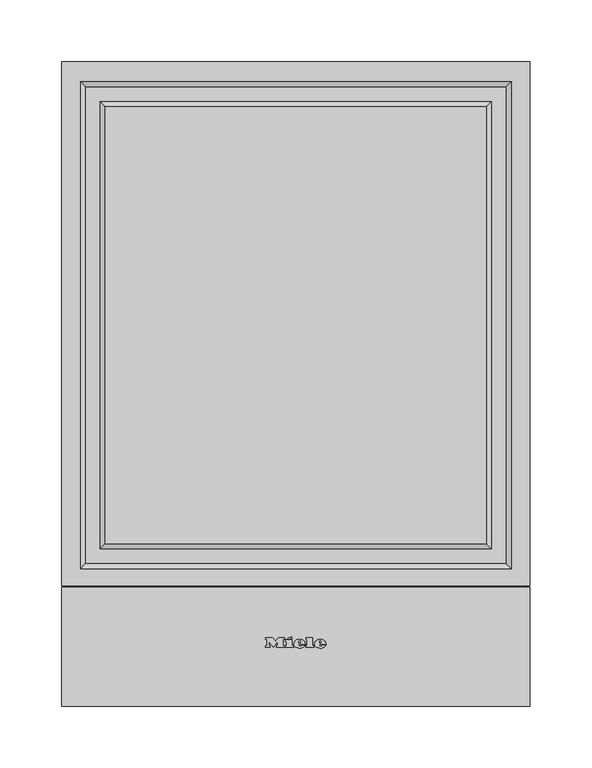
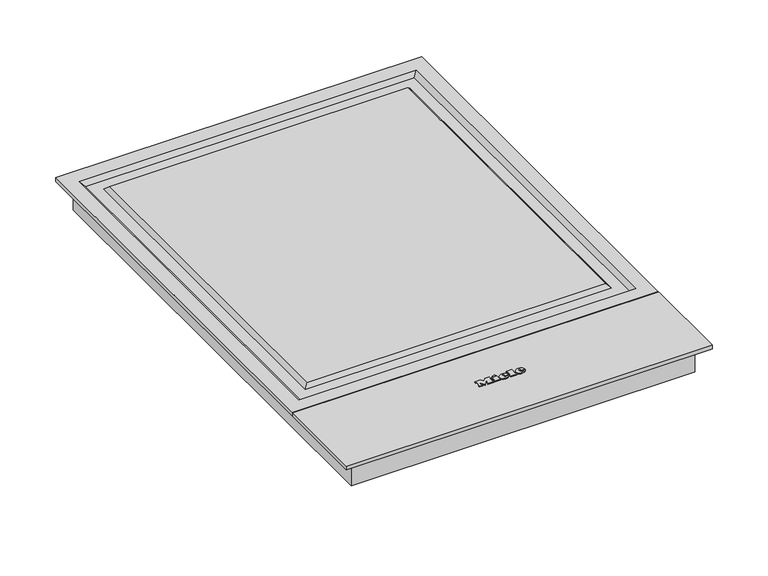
"""IFC4 building model written with IfcOpenShell, lengths in millimetres: proxy geometry, 10684350_B_CS7632FL : 27763250_B_10684350_CS7632FL."""

import ifcopenshell
import ifcopenshell.guid

model = None  # the IFC model being written
_history = None  # IfcOwnerHistory: only IFC2X3 demands one
_inside = {}  # id of a spatial element -> (the spatial element, [elements in it])
_under = {}  # id of a project, library or spatial element -> (it, [spatial elements below it])
_declared = {}  # id of a project -> (the project, [libraries it declares])
_typed = {}  # id of a type object -> (the type object, [elements of that type])
_made_of = {}  # id of a material, layer set ... -> (it, [elements and type objects made of it])


def new_model(schema):
    """Start an empty IFC model of exactly this schema.

    Asked for "IFC4X3", IfcOpenShell would pick the latest addendum, in which some entities
    have other attributes; the version numbers below select the first issue.
    IFC2X3 requires an IfcOwnerHistory on every rooted entity: one is made here for all.
    """
    global model, _history
    if schema == "IFC4X3":
        model = ifcopenshell.file(schema_version=(4, 3, 0, 0))
    else:
        model = ifcopenshell.file(schema=schema)
    _inside.clear()
    _under.clear()
    _declared.clear()
    _typed.clear()
    _made_of.clear()
    _history = None
    if model.schema == "IFC2X3":
        org = make("IfcOrganization", Name="unknown")
        user = make(
            "IfcPersonAndOrganization",
            ThePerson=make("IfcPerson", FamilyName="unknown"),
            TheOrganization=org,
        )
        app = make(
            "IfcApplication",
            ApplicationDeveloper=org,
            Version="unknown",
            ApplicationFullName="unknown",
            ApplicationIdentifier="unknown",
        )
        _history = make(
            "IfcOwnerHistory",
            OwningUser=user,
            OwningApplication=app,
            ChangeAction="ADDED",
            CreationDate=0,
        )
    return model


def make(cls, **values):
    """One entity of the class cls with the attributes given. An attribute that is None is left unset."""
    return model.create_entity(
        cls, **{name: value for name, value in values.items() if value is not None}
    )


def rooted(cls, **values):
    """An entity with a GlobalId (a new one), such as an element, a storey or a relation."""
    return make(cls, GlobalId=ifcopenshell.guid.new(), OwnerHistory=_history, **values)


def si_unit(unit_type, name, prefix=None):
    """IfcSIUnit, for example si_unit("LENGTHUNIT", "METRE", prefix="MILLI")."""
    return make("IfcSIUnit", UnitType=unit_type, Prefix=prefix, Name=name)


def assignment(units):
    """IfcUnitAssignment: the units of a project."""
    return None if units is None else make("IfcUnitAssignment", Units=units)


def point(xyz):
    """IfcCartesianPoint."""
    return None if xyz is None else make("IfcCartesianPoint", Coordinates=xyz)


def direction(xyz):
    """IfcDirection."""
    return None if xyz is None else make("IfcDirection", DirectionRatios=xyz)


def frame(location, z_axis=None, x_axis=None):
    """IfcAxis2Placement3D, a coordinate frame: its origin and axes. An axis left out is left unset."""
    return make(
        "IfcAxis2Placement3D",
        Location=point(location),
        Axis=direction(z_axis),
        RefDirection=direction(x_axis),
    )


def frame_2d(location, x_axis=None):
    """IfcAxis2Placement2D, a coordinate frame in the plane: its origin and x axis."""
    return make(
        "IfcAxis2Placement2D", Location=point(location), RefDirection=direction(x_axis)
    )


def origin():
    """The frame at (0, 0, 0) with its axes left unset."""
    return frame((0.0, 0.0, 0.0))


def origin_with_axes():
    """The frame at (0, 0, 0) with the z axis (0, 0, 1) and the x axis (1, 0, 0) written out."""
    return frame((0.0, 0.0, 0.0), z_axis=(0.0, 0.0, 1.0), x_axis=(1.0, 0.0, 0.0))


def place(relative_to, where):
    """IfcLocalPlacement: puts the frame where relative to a parent placement (None: the world)."""
    return make(
        "IfcLocalPlacement", PlacementRelTo=relative_to, RelativePlacement=where
    )


def context(
    kind, dimensions, precision=None, world=None, true_north=None, identifier=None
):
    """IfcGeometricRepresentationContext, for example the 3D "Model" context."""
    return make(
        "IfcGeometricRepresentationContext",
        ContextIdentifier=identifier,
        ContextType=kind,
        CoordinateSpaceDimension=dimensions,
        Precision=precision,
        WorldCoordinateSystem=world,
        TrueNorth=true_north,
    )


def project(units=None, contexts=None):
    """IfcProject with its units and contexts."""
    return rooted(
        "IfcProject",
        Name="project",
        RepresentationContexts=contexts,
        UnitsInContext=assignment(units),
    )


def spatial(cls, under=None, at=None, **own):
    """A site, building, storey or space (cls), placed at a placement, below another one or the project."""
    s = rooted(cls, ObjectPlacement=at, **own)
    if under is not None:
        _under.setdefault(under.id(), (under, []))[1].append(s)
    return s


def polyline(points):
    """IfcPolyline through the points."""
    return make("IfcPolyline", Points=[point(p) for p in points])


def circle_curve(where, radius):
    """IfcCircle in the frame where."""
    return make("IfcCircle", Position=where, Radius=radius)


def ellipse_curve(where, semi_axis1, semi_axis2):
    """IfcEllipse in the frame where."""
    return make(
        "IfcEllipse", Position=where, SemiAxis1=semi_axis1, SemiAxis2=semi_axis2
    )


def trimmed(basis, trim1, trim2, sense, master):
    """IfcTrimmedCurve: the piece of a basis curve between two trims."""
    return make(
        "IfcTrimmedCurve",
        BasisCurve=basis,
        Trim1=trim1,
        Trim2=trim2,
        SenseAgreement=sense,
        MasterRepresentation=master,
    )


def segment(curve, same_sense, transition):
    """IfcCompositeCurveSegment."""
    return make(
        "IfcCompositeCurveSegment",
        Transition=transition,
        SameSense=same_sense,
        ParentCurve=curve,
    )


def composite_curve(segments, self_intersect=None):
    """IfcCompositeCurve: segments joined end to end."""
    return make("IfcCompositeCurve", Segments=segments, SelfIntersect=self_intersect)


def outline(outer, holes=None, kind="AREA"):
    """IfcArbitraryClosedProfileDef: a profile drawn as a closed curve; with holes, ...WithVoids."""
    if holes is None:
        return make("IfcArbitraryClosedProfileDef", ProfileType=kind, OuterCurve=outer)
    return make(
        "IfcArbitraryProfileDefWithVoids",
        ProfileType=kind,
        OuterCurve=outer,
        InnerCurves=holes,
    )


def extrude(swept, where, along, depth):
    """IfcExtrudedAreaSolid: the profile swept, set in the frame where, extruded along a direction by depth."""
    return make(
        "IfcExtrudedAreaSolid",
        SweptArea=swept,
        Position=where,
        ExtrudedDirection=direction(along),
        Depth=depth,
    )


def faces_of(points, faces, orient=None, outer=None):
    """IfcFace entities. A face is a list of loops; a loop is a list of indices into points, from 0.

    orient and outer hold one flag for each loop. By default every Orientation is true, the
    first loop of a face is its IfcFaceOuterBound and the others are IfcFaceBound.
    """
    made = []
    for i, loops in enumerate(faces):
        bounds = []
        for j, loop in enumerate(loops):
            is_outer = j == 0 if outer is None else outer[i][j]
            bounds.append(
                make(
                    "IfcFaceOuterBound" if is_outer else "IfcFaceBound",
                    Bound=make("IfcPolyLoop", Polygon=[points[k] for k in loop]),
                    Orientation=True if orient is None else orient[i][j],
                )
            )
        made.append(make("IfcFace", Bounds=bounds))
    return made


def faceted_brep(points, faces, orient=None, outer=None, voids=None):
    """IfcFacetedBrep: a solid bounded by flat faces; with voids (closed shells), ...WithVoids."""
    shared = [point(p) for p in points]
    hull = make("IfcClosedShell", CfsFaces=faces_of(shared, faces, orient, outer))
    if voids is None:
        return make("IfcFacetedBrep", Outer=hull)
    return make(
        "IfcFacetedBrepWithVoids",
        Outer=hull,
        Voids=[
            make(cls, CfsFaces=faces_of(shared, fs, o, b)) for cls, fs, o, b in voids
        ],
    )


def shape(context_of_items, identifier, shape_type, items):
    """IfcShapeRepresentation: the items that make up one representation, for example the "Body"."""
    return make(
        "IfcShapeRepresentation",
        ContextOfItems=context_of_items,
        RepresentationIdentifier=identifier,
        RepresentationType=shape_type,
        Items=items,
    )


def source(mapping_origin, context_of_items, identifier, shape_type, items):
    """IfcRepresentationMap: a shape defined once, which mapped items show again and again."""
    return make(
        "IfcRepresentationMap",
        MappingOrigin=mapping_origin,
        MappedRepresentation=shape(context_of_items, identifier, shape_type, items),
    )


def transform(
    local_origin,
    x_axis=None,
    y_axis=None,
    z_axis=None,
    scale=None,
    scale2=None,
    scale3=None,
    uniform=True,
):
    """IfcCartesianTransformationOperator3D, or its non-uniform kind. x_axis, y_axis, z_axis: its Axis1, 2, 3."""
    if uniform:
        return make(
            "IfcCartesianTransformationOperator3D",
            Axis1=direction(x_axis),
            Axis2=direction(y_axis),
            LocalOrigin=point(local_origin),
            Scale=scale,
            Axis3=direction(z_axis),
        )
    return make(
        "IfcCartesianTransformationOperator3DnonUniform",
        Axis1=direction(x_axis),
        Axis2=direction(y_axis),
        LocalOrigin=point(local_origin),
        Scale=scale,
        Axis3=direction(z_axis),
        Scale2=scale2,
        Scale3=scale3,
    )


def mapped(mapping_source, mapping_target):
    """IfcMappedItem: shows the shape of a source again, moved by a transform."""
    return make(
        "IfcMappedItem", MappingSource=mapping_source, MappingTarget=mapping_target
    )


def made_of(thing, what):
    """Note that an element or type object is made of a material, layer set ...; save() writes the relation."""
    if what is not None:
        _made_of.setdefault(what.id(), (what, []))[1].append(thing)
    return thing


def element(
    cls,
    number,
    at=None,
    inside=None,
    cuts=None,
    type_object=None,
    material=None,
    context=None,
    identifier="Body",
    shape_type=None,
    held_by="IfcProductDefinitionShape",
    body=None,
    shapes=None,
    **own,
):
    """One element of the class cls, such as IfcWall. Its Tag is "e" and its number.

    at: its placement. inside: the storey or other place that contains it. cuts: it is an
    opening in that element (IfcRelVoidsElement). A single representation is given by context,
    identifier, shape_type and body (its items); several are given by shapes. held_by: the class
    of the entity that holds the representations. save() writes the other relations.
    """
    e = rooted(cls, Tag="e%d" % number, ObjectPlacement=at, **own)
    if body is not None:
        shapes = [shape(context, identifier, shape_type, body)]
    if shapes is not None:
        e.Representation = make(held_by, Representations=shapes)
    if inside is not None:
        _inside.setdefault(inside.id(), (inside, []))[1].append(e)
    if cuts is not None:
        rooted(
            "IfcRelVoidsElement", RelatingBuildingElement=cuts, RelatedOpeningElement=e
        )
    if type_object is not None:
        _typed.setdefault(type_object.id(), (type_object, []))[1].append(e)
    return made_of(e, material)


def aggregate(whole, parts):
    """IfcRelAggregates: a whole, such as a stair, and the parts it consists of."""
    return rooted("IfcRelAggregates", RelatingObject=whole, RelatedObjects=parts)


def save(model, path):
    """Write the relations noted so far, then the file.

    IfcRelAggregates (storeys below a building ...), IfcRelContainedInSpatialStructure (elements
    in a storey), IfcRelDefinesByType, IfcRelAssociatesMaterial and IfcRelDeclares: one each for
    every whole, place, type object, material and project.
    """
    for whole, parts in _under.values():
        aggregate(whole, parts)
    for where, things in _inside.values():
        rooted(
            "IfcRelContainedInSpatialStructure",
            RelatedElements=things,
            RelatingStructure=where,
        )
    for kind, things in _typed.values():
        rooted("IfcRelDefinesByType", RelatedObjects=things, RelatingType=kind)
    for what, things in _made_of.values():
        rooted("IfcRelAssociatesMaterial", RelatedObjects=things, RelatingMaterial=what)
    for by, libraries in _declared.values():
        rooted("IfcRelDeclares", RelatingContext=by, RelatedDefinitions=libraries)
    model.write(path)


def plane_surface(at):
    """IfcPlane: the flat surface through the origin of the frame at, square to its z axis."""
    return make("IfcPlane", Position=at)


def cylinder_surface(at, radius):
    """IfcCylindricalSurface: all points at the distance radius from the z axis of the frame at."""
    return make("IfcCylindricalSurface", Position=at, Radius=radius)


def revolved_surface(curve, axis_point, axis_direction):
    """IfcSurfaceOfRevolution: the curve turned about the line through axis_point along axis_direction."""
    return make(
        "IfcSurfaceOfRevolution",
        SweptCurve=make("IfcArbitraryOpenProfileDef", ProfileType="CURVE", Curve=curve),
        AxisPosition=make("IfcAxis1Placement", Location=point(axis_point), Axis=direction(axis_direction)),
    )


def extruded_surface(curve, direction_of_extrusion, depth):
    """IfcSurfaceOfLinearExtrusion: the curve pushed along a direction by depth."""
    return make(
        "IfcSurfaceOfLinearExtrusion",
        SweptCurve=make("IfcArbitraryOpenProfileDef", ProfileType="CURVE", Curve=curve),
        ExtrudedDirection=direction(direction_of_extrusion),
        Depth=depth,
    )


def advanced_brep(points, edges, surfaces, faces):
    """IfcAdvancedBrep: a solid bounded by faces that lie on surfaces and meet in shared edges.

    An edge is (start, end): straight between two places in points (the first is 0);
    or (start, end, curve); or (start, end, curve, False) where it runs against its curve.
    A face is (place in surfaces, loops), or (place, loops, False) where it looks against
    its surface's normal. A loop lists edges by number (the first is 1), with a minus sign
    where the edge is run from its end to its start. The first loop is the outer one.
    """
    corners = [point(p) for p in points]
    vertices = [make("IfcVertexPoint", VertexGeometry=c) for c in corners]
    made = []
    for start, end, *more in edges:
        made.append(
            make(
                "IfcEdgeCurve",
                EdgeStart=vertices[start],
                EdgeEnd=vertices[end],
                EdgeGeometry=more[0] if more else make("IfcPolyline", Points=[corners[start], corners[end]]),
                SameSense=more[1] if len(more) > 1 else True,
            )
        )
    hull = []
    for where, loops, *sense in faces:
        bounds = []
        for j, loop in enumerate(loops):
            ring = [make("IfcOrientedEdge", EdgeElement=made[abs(k) - 1], Orientation=k > 0) for k in loop]
            bounds.append(
                make(
                    "IfcFaceOuterBound" if j == 0 else "IfcFaceBound",
                    Bound=make("IfcEdgeLoop", EdgeList=ring),
                    Orientation=True,
                )
            )
        hull.append(make("IfcAdvancedFace", Bounds=bounds, FaceSurface=surfaces[where], SameSense=sense[0] if sense else True))
    return make("IfcAdvancedBrep", Outer=make("IfcClosedShell", CfsFaces=hull))


def specialty_equipment_c195ef97(model_context):
    return source(origin(), model_context, "Body", "SolidModel", [
        advanced_brep(
        [(19.06, 49.1959995, 4.9919765), (19.06, 50.0039992, 4.9925904), (24.412, 50.0039992, 4.9925904), (15.1, 50.0039992, 4.9925904), (17.3, 47.3, 4.990536), (24.276, 49.1959995, 4.9919765), (21.86, 49.1959995, 4.9919765), (19.956, 48.2999997, 4.9912958), (19.06, 51.0279989, 4.9933684), (19.06, 51.8999987, 4.9940309), (20.428, 51.8999987, 4.9940309), (20.428, 51.0279989, 4.9933684), (19.06, 49.1967592, 3.9919768), (19.956, 48.3007595, 3.9912961), (21.86, 49.1967592, 3.9919768), (24.276, 49.1967592, 3.9919768), (17.3, 47.3007598, 3.9905363), (15.1, 50.004759, 3.9925907), (24.412, 50.004759, 3.9925907), (19.06, 50.004759, 3.9925907), (19.06, 51.0287587, 3.9933687), (20.428, 51.0287587, 3.9933687), (20.428, 51.9007584, 3.9940312), (19.06, 51.9007584, 3.9940312)],
        [
            (0, 1),
            (1, 2),
            (2, 3, ellipse_curve(frame((19.756, 50.0039992, 4.9925904), z_axis=(0.0, -0.0007597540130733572, 0.9999997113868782), x_axis=(-1.0, 0.0, 0.0)), 4.656, 3.848)),
            (3, 4, circle_curve(frame((18.1960436, 50.2759991, 4.9927971), z_axis=(0.0, -0.0007597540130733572, 0.9999997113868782), x_axis=(0.0, -0.9999997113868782, -0.0007597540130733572)), 3.1079688)),
            (4, 5, circle_curve(frame((19.6627936, 52.3879985, 4.9944017), z_axis=(0.0, -0.0007597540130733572, 0.9999997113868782), x_axis=(0.0, -0.9999997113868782, -0.0007597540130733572)), 5.6098607)),
            (5, 6),
            (6, 7, circle_curve(frame((20.3470588, 49.9399992, 4.9925418), z_axis=(0.0, 0.0007597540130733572, -0.9999997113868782), x_axis=(0.0, -0.9999997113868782, -0.0007597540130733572)), 1.6859795)),
            (7, 0, circle_curve(frame((19.956, 49.1959995, 4.9919765), z_axis=(0.0, 0.0007597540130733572, -0.9999997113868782), x_axis=(0.0, -0.9999997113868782, -0.0007597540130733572)), 0.896)),
            (8, 9),
            (9, 10, circle_curve(frame((19.744, 51.8999987, 4.9940309), z_axis=(0.0, 0.0007597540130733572, -0.9999997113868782), x_axis=(0.0, -0.9999997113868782, -0.0007597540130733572)), 0.684)),
            (10, 11),
            (11, 8),
            (12, 13, circle_curve(frame((19.956, 49.1967592, 3.9919768), z_axis=(0.0, -0.0007597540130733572, 0.9999997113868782), x_axis=(0.0, -0.9999997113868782, -0.0007597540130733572)), 0.896)),
            (13, 14, circle_curve(frame((20.3470588, 49.940759, 3.9925421), z_axis=(0.0, -0.0007597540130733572, 0.9999997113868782), x_axis=(0.0, -0.9999997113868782, -0.0007597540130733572)), 1.6859795)),
            (14, 15),
            (15, 16, circle_curve(frame((19.6627936, 52.3887583, 3.994402), z_axis=(0.0, 0.0007597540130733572, -0.9999997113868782), x_axis=(0.0, -0.9999997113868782, -0.0007597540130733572)), 5.6098607)),
            (16, 17, circle_curve(frame((18.1960436, 50.2767589, 3.9927974), z_axis=(0.0, 0.0007597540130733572, -0.9999997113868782), x_axis=(0.0, -0.9999997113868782, -0.0007597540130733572)), 3.1079688)),
            (17, 18, ellipse_curve(frame((19.756, 50.004759, 3.9925907), z_axis=(0.0, 0.0007597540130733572, -0.9999997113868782), x_axis=(-1.0, 0.0, 0.0)), 4.656, 3.848)),
            (18, 19),
            (19, 12),
            (20, 21),
            (21, 22),
            (22, 23, circle_curve(frame((19.744, 51.9007584, 3.9940312), z_axis=(0.0, -0.0007597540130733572, 0.9999997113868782), x_axis=(0.0, -0.9999997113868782, -0.0007597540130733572)), 0.684)),
            (23, 20),
            (0, 12),
            (19, 1),
            (18, 2),
            (5, 15),
            (14, 6),
            (17, 3),
            (13, 7),
            (16, 4),
            (8, 20),
            (23, 9),
            (22, 10),
            (21, 11),
        ],
        [
            plane_surface(frame((19.06, 50.0039992, 4.9925904), z_axis=(0.0, -0.0007597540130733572, 0.9999997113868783), x_axis=(0.0, 0.9999997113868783, 0.0007597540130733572))),
            plane_surface(frame((19.06, 50.004759, 3.9925907), z_axis=(0.0, 0.0007597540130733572, -0.9999997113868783), x_axis=(0.0, -0.9999997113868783, -0.0007597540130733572))),
            plane_surface(frame((19.06, 49.1959995, 4.9919765), z_axis=(1.0, 0.0, 0.0), x_axis=(0.0, 0.0007597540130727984, -0.9999997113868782))),
            plane_surface(frame((19.06, 50.0039992, 4.9925904), z_axis=(0.0, -0.9999997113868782, -0.0007597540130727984), x_axis=(0.0, 0.0007597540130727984, -0.9999997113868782))),
            plane_surface(frame((24.276, 49.1959995, 4.9919765), z_axis=(0.0, 0.9999997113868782, 0.0007597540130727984), x_axis=(0.0, 0.0007597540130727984, -0.9999997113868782))),
            extruded_surface(trimmed(ellipse_curve(frame((19.756, 50.0055187, 2.992591), z_axis=(0.0, -0.0007597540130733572, 0.9999997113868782), x_axis=(-1.0, 0.0, 0.0)), 4.656, 3.848), [point((24.412, 50.0055187, 2.992591))], [point((15.1, 50.0055187, 2.992591))], True, "CARTESIAN"), (0.0, -0.0007597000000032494, 0.9999997), 0.9999999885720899),
            revolved_surface(polyline([(20.3470588, 48.25477998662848, 3.9912611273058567), (20.3470588, 48.25402023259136, 4.991260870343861)]), (20.3470588, 49.940759, 3.9925421), (0.0, 0.0007597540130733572, -0.9999997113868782)),
            revolved_surface(polyline([(19.956, 48.30075945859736, 3.9912960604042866), (19.956, 48.29999970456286, 4.991295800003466)]), (19.956, 49.1967592, 3.9919768), (0.0, 0.0007597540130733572, -0.9999997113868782)),
            cylinder_surface(frame((18.1960436, 50.2767589, 3.9927974), z_axis=(0.0, -0.0007597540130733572, 0.9999997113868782), x_axis=(0.0, -0.9999997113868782, -0.0007597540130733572)), 3.1079688),
            cylinder_surface(frame((19.6627936, 52.3887583, 3.994402), z_axis=(0.0, -0.0007597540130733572, 0.9999997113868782), x_axis=(0.0, -0.9999997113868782, -0.0007597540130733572)), 5.6098607),
            plane_surface(frame((19.06, 51.0279989, 4.9933684), z_axis=(1.0, 0.0, 0.0), x_axis=(0.0, 0.0007597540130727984, -0.9999997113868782))),
            revolved_surface(polyline([(19.744, 51.21675859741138, 3.9935115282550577), (19.744, 51.215998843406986, 4.993511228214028)]), (19.744, 51.9007584, 3.9940312), (0.0, 0.0007597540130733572, -0.9999997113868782)),
            plane_surface(frame((20.428, 51.8999987, 4.9940309), z_axis=(-1.0, 0.0, 0.0), x_axis=(0.0, 0.0007597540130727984, -0.9999997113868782))),
            plane_surface(frame((20.428, 51.0279989, 4.9933684), z_axis=(0.0, 0.9999997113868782, 0.0007597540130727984), x_axis=(0.0, 0.0007597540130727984, -0.9999997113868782))),
        ],
        [
            (0, [[1, 2, 3, 4, 5, 6, 7, 8], [9, 10, 11, 12]]),
            (1, [[13, 14, 15, 16, 17, 18, 19, 20], [21, 22, 23, 24]]),
            (2, [[-1, 25, -20, 26]]),
            (3, [[-2, -26, -19, 27]]),
            (4, [[-6, 28, -15, 29]]),
            (5, [[-3, -27, -18, 30]]),
            (6, [[-7, -29, -14, 31]]),
            (7, [[-8, -31, -13, -25]]),
            (8, [[-4, -30, -17, 32]]),
            (9, [[-5, -32, -16, -28]]),
            (10, [[-9, 33, -24, 34]]),
            (11, [[-10, -34, -23, 35]]),
            (12, [[-11, -35, -22, 36]]),
            (13, [[-12, -36, -21, -33]]),
        ],
    ),
        advanced_brep(
        [(2.364, 49.1959995, 4.9919765), (2.364, 50.0039992, 4.9925904), (7.716, 50.0039992, 4.9925904), (-1.596, 50.0039992, 4.9925904), (0.604, 47.3, 4.990536), (7.58, 49.1959995, 4.9919765), (5.164, 49.1959995, 4.9919765), (3.26, 48.2999997, 4.9912958), (2.364, 51.0279989, 4.9933684), (2.364, 51.8999987, 4.9940309), (3.732, 51.8999987, 4.9940309), (3.732, 51.0279989, 4.9933684), (2.364, 49.1967592, 3.9919768), (3.26, 48.3007595, 3.9912961), (5.164, 49.1967592, 3.9919768), (7.58, 49.1967592, 3.9919768), (0.604, 47.3007598, 3.9905363), (-1.596, 50.004759, 3.9925907), (7.716, 50.004759, 3.9925907), (2.364, 50.004759, 3.9925907), (2.364, 51.0287587, 3.9933687), (3.732, 51.0287587, 3.9933687), (3.732, 51.9007584, 3.9940312), (2.364, 51.9007584, 3.9940312)],
        [
            (0, 1),
            (1, 2),
            (2, 3, ellipse_curve(frame((3.06, 50.0039992, 4.9925904), z_axis=(0.0, -0.0007597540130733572, 0.9999997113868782), x_axis=(-1.0, 0.0, 0.0)), 4.656, 3.848)),
            (3, 4, circle_curve(frame((1.5000436, 50.2759991, 4.9927971), z_axis=(0.0, -0.0007597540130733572, 0.9999997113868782), x_axis=(0.0, -0.9999997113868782, -0.0007597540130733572)), 3.1079688)),
            (4, 5, circle_curve(frame((2.9667936, 52.3879985, 4.9944017), z_axis=(0.0, -0.0007597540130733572, 0.9999997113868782), x_axis=(0.0, -0.9999997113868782, -0.0007597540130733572)), 5.6098607)),
            (5, 6),
            (6, 7, circle_curve(frame((3.6510588, 49.9399992, 4.9925418), z_axis=(0.0, 0.0007597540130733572, -0.9999997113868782), x_axis=(0.0, -0.9999997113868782, -0.0007597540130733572)), 1.6859795)),
            (7, 0, circle_curve(frame((3.26, 49.1959995, 4.9919765), z_axis=(0.0, 0.0007597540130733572, -0.9999997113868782), x_axis=(0.0, -0.9999997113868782, -0.0007597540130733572)), 0.896)),
            (8, 9),
            (9, 10, circle_curve(frame((3.048, 51.8999987, 4.9940309), z_axis=(0.0, 0.0007597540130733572, -0.9999997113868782), x_axis=(0.0, -0.9999997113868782, -0.0007597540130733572)), 0.684)),
            (10, 11),
            (11, 8),
            (12, 13, circle_curve(frame((3.26, 49.1967592, 3.9919768), z_axis=(0.0, -0.0007597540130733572, 0.9999997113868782), x_axis=(0.0, -0.9999997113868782, -0.0007597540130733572)), 0.896)),
            (13, 14, circle_curve(frame((3.6510588, 49.940759, 3.9925421), z_axis=(0.0, -0.0007597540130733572, 0.9999997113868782), x_axis=(0.0, -0.9999997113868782, -0.0007597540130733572)), 1.6859795)),
            (14, 15),
            (15, 16, circle_curve(frame((2.9667936, 52.3887583, 3.994402), z_axis=(0.0, 0.0007597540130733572, -0.9999997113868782), x_axis=(0.0, -0.9999997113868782, -0.0007597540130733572)), 5.6098607)),
            (16, 17, circle_curve(frame((1.5000436, 50.2767589, 3.9927974), z_axis=(0.0, 0.0007597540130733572, -0.9999997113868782), x_axis=(0.0, -0.9999997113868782, -0.0007597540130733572)), 3.1079688)),
            (17, 18, ellipse_curve(frame((3.06, 50.004759, 3.9925907), z_axis=(0.0, 0.0007597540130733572, -0.9999997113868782), x_axis=(-1.0, 0.0, 0.0)), 4.656, 3.848)),
            (18, 19),
            (19, 12),
            (20, 21),
            (21, 22),
            (22, 23, circle_curve(frame((3.048, 51.9007584, 3.9940312), z_axis=(0.0, -0.0007597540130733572, 0.9999997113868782), x_axis=(0.0, -0.9999997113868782, -0.0007597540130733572)), 0.684)),
            (23, 20),
            (0, 12),
            (19, 1),
            (18, 2),
            (5, 15),
            (14, 6),
            (17, 3),
            (13, 7),
            (16, 4),
            (8, 20),
            (23, 9),
            (22, 10),
            (21, 11),
        ],
        [
            plane_surface(frame((2.364, 50.0039992, 4.9925904), z_axis=(0.0, -0.0007597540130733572, 0.9999997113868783), x_axis=(0.0, 0.9999997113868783, 0.0007597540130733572))),
            plane_surface(frame((2.364, 50.004759, 3.9925907), z_axis=(0.0, 0.0007597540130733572, -0.9999997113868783), x_axis=(0.0, -0.9999997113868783, -0.0007597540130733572))),
            plane_surface(frame((2.364, 49.1959995, 4.9919765), z_axis=(1.0, 0.0, 0.0), x_axis=(0.0, 0.0007597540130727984, -0.9999997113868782))),
            plane_surface(frame((2.364, 50.0039992, 4.9925904), z_axis=(0.0, -0.9999997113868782, -0.0007597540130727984), x_axis=(0.0, 0.0007597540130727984, -0.9999997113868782))),
            plane_surface(frame((7.58, 49.1959995, 4.9919765), z_axis=(0.0, 0.9999997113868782, 0.0007597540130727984), x_axis=(0.0, 0.0007597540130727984, -0.9999997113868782))),
            extruded_surface(trimmed(ellipse_curve(frame((3.06, 50.0055187, 2.992591), z_axis=(0.0, -0.0007597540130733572, 0.9999997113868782), x_axis=(-1.0, 0.0, 0.0)), 4.656, 3.848), [point((7.716, 50.0055187, 2.992591))], [point((-1.596, 50.0055187, 2.992591))], True, "CARTESIAN"), (0.0, -0.0007597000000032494, 0.9999997), 0.9999999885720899),
            revolved_surface(polyline([(3.6510588, 48.25477998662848, 3.9912611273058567), (3.6510588, 48.25402023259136, 4.991260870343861)]), (3.6510588, 49.940759, 3.9925421), (0.0, 0.0007597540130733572, -0.9999997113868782)),
            revolved_surface(polyline([(3.26, 48.30075945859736, 3.9912960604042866), (3.26, 48.29999970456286, 4.991295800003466)]), (3.26, 49.1967592, 3.9919768), (0.0, 0.0007597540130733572, -0.9999997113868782)),
            cylinder_surface(frame((1.5000436, 50.2767589, 3.9927974), z_axis=(0.0, -0.0007597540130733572, 0.9999997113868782), x_axis=(0.0, -0.9999997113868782, -0.0007597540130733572)), 3.1079688),
            cylinder_surface(frame((2.9667936, 52.3887583, 3.994402), z_axis=(0.0, -0.0007597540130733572, 0.9999997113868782), x_axis=(0.0, -0.9999997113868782, -0.0007597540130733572)), 5.6098607),
            plane_surface(frame((2.364, 51.0279989, 4.9933684), z_axis=(1.0, 0.0, 0.0), x_axis=(0.0, 0.0007597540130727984, -0.9999997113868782))),
            revolved_surface(polyline([(3.048, 51.21675859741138, 3.9935115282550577), (3.048, 51.215998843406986, 4.993511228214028)]), (3.048, 51.9007584, 3.9940312), (0.0, 0.0007597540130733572, -0.9999997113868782)),
            plane_surface(frame((3.732, 51.8999987, 4.9940309), z_axis=(-1.0, 0.0, 0.0), x_axis=(0.0, 0.0007597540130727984, -0.9999997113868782))),
            plane_surface(frame((3.732, 51.0279989, 4.9933684), z_axis=(0.0, 0.9999997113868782, 0.0007597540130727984), x_axis=(0.0, 0.0007597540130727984, -0.9999997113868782))),
        ],
        [
            (0, [[1, 2, 3, 4, 5, 6, 7, 8], [9, 10, 11, 12]]),
            (1, [[13, 14, 15, 16, 17, 18, 19, 20], [21, 22, 23, 24]]),
            (2, [[-1, 25, -20, 26]]),
            (3, [[-2, -26, -19, 27]]),
            (4, [[-6, 28, -15, 29]]),
            (5, [[-3, -27, -18, 30]]),
            (6, [[-7, -29, -14, 31]]),
            (7, [[-8, -31, -13, -25]]),
            (8, [[-4, -30, -17, 32]]),
            (9, [[-5, -32, -16, -28]]),
            (10, [[-9, 33, -24, 34]]),
            (11, [[-10, -34, -23, 35]]),
            (12, [[-11, -35, -22, 36]]),
            (13, [[-12, -36, -21, -33]]),
        ],
    ),
        extrude(outline(polyline([(0.0, 0.0), (-0.0109086, -2.9993294), (-1.4390415, -2.9920868), (-1.4315306, 0.0), (0.0, 0.0)])), frame((-6.38, 54.8287576, 3.9962558), z_axis=(0.0, -0.0007597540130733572, 0.9999997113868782), x_axis=(-0.42472021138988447, 0.9053243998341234, 0.0006878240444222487)), (0.0, 0.0, 1.0), 1.0),
        extrude(outline(polyline([(-0.4933908, 2.4141097), (-2.7800844, -2.4601583), (-7.0459742, -0.4588767), (-7.4401145, -1.2990179), (-8.6568709, -0.728194), (-5.9760369, 4.9862153), (-4.7592806, 4.4153913), (-5.1636142, 3.5535222), (-2.1941494, 2.16044), (-1.7898157, 3.022309), (-0.4933908, 2.4141097)])), frame((-6.38, 54.8287576, 3.9962558), z_axis=(0.0, -0.0007597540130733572, 0.9999997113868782), x_axis=(-0.42472021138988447, 0.9053243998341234, 0.0006878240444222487)), (0.0, 0.0, 1.0), 1.0),
        extrude(outline(polyline([(0.0, 0.0), (0.0, -1.304), (-5.504, -1.304), (-5.504, 5.3519999), (-6.488, 5.3519999), (-6.488, 6.6959999), (0.0, 6.6959999), (0.0, 5.3519999), (-0.96, 5.3519999), (-0.96, 0.0), (0.0, 0.0)])), frame((8.164, 53.9967578, 3.9956236), z_axis=(0.0, -0.0007597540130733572, 0.9999997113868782), x_axis=(-1.0, 0.0, 0.0)), (0.0, 0.0, 1.0), 1.0),
        extrude(outline(polyline([(0.0, 0.0), (0.0, -1.304), (-5.576, -1.304), (-7.92, 1.696), (-10.256, -1.304), (-15.128, -1.304), (-15.128, 0.0), (-14.112, 0.0), (-14.112, 5.3519999), (-15.128, 5.3519999), (-15.128, 6.6959999), (-8.744, 6.6959999), (-8.744, 5.3519999), (-9.728, 5.3519999), (-9.728, 1.8807776), (-6.136, 6.6959999), (-2.56, 1.9488753), (-2.56, 5.3519999), (-3.52, 5.3519999), (-3.52, 6.6959999), (0.0, 6.6959999), (0.0, 5.3519999), (-0.968, 5.3519999), (-0.968, 0.0), (0.0, 0.0)])), frame((-24.3, 53.9967578, 3.9956236), z_axis=(0.0, -0.0007597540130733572, 0.9999997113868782), x_axis=(-1.0, 0.0, 0.0)), (0.0, 0.0, 1.0), 1.0),
        extrude(outline(polyline([(-114.0, 103.9), (-114.0, 475.2), (114.0, 475.2), (114.0, 446.5), (137.6, 446.5), (137.6, 196.5), (114.0, 196.5), (114.0, 103.9), (-114.0, 103.9)])), frame((0.0, 0.0, -55.1), z_axis=(0.0, 0.0, 1.0), x_axis=(1.0, 0.0, 0.0)), (0.0, 0.0, 1.0), 26.8),
        faceted_brep([(189.0, 520.0, 4.0), (-189.0, 520.0, 4.0), (-189.0, 97.0, 4.0), (189.0, 97.0, 4.0), (174.0, 504.0, 4.0), (174.0, 111.0, 4.0), (-174.0, 111.0, 4.0), (-174.0, 504.0, 4.0), (154.0, 131.0, 4.0), (154.0, 484.0, 4.0), (-154.0, 484.0, 4.0), (-154.0, 131.0, 4.0), (189.0, 520.0, 0.0), (189.0, 97.0, 0.0), (177.5, 97.0, 0.0), (177.5, 508.5, 0.0), (-177.5, 508.5, 0.0), (-177.5, 97.0, 0.0), (-189.0, 97.0, 0.0), (-189.0, 520.0, 0.0), (158.0, 127.0, 0.0), (158.0, 488.0, 0.0), (170.0, 115.0, 0.0), (170.0, 500.0, 0.0), (-158.0, 127.0, 0.0), (-170.0, 115.0, 0.0), (-158.0, 488.0, 0.0), (-170.0, 500.0, 0.0), (177.5, 508.5, -28.3), (177.5, 11.5, -28.3), (-177.5, 11.5, -28.3), (-177.5, 508.5, -28.3), (-177.5, 11.5, 0.0), (177.5, 11.5, 0.0)], [[[0, 1, 2, 3], [4, 5, 6, 7]], [[8, 9, 10, 11]], [[12, 13, 14, 15, 16, 17, 18, 19]], [[1, 0, 12, 19]], [[2, 1, 19, 18]], [[3, 2, 18, 17, 14, 13]], [[0, 3, 13, 12]], [[8, 20, 21, 9]], [[22, 5, 4, 23]], [[20, 8, 11, 24]], [[5, 22, 25, 6]], [[24, 11, 10, 26]], [[6, 25, 27, 7]], [[26, 10, 9, 21]], [[7, 27, 23, 4]], [[28, 29, 30, 31]], [[22, 23, 27, 25], [21, 20, 24, 26]], [[32, 33, 14, 17]], [[28, 31, 16, 15]], [[31, 30, 32, 17, 16]], [[30, 29, 33, 32]], [[29, 28, 15, 14, 33]]]),
        extrude(outline(polyline([(177.5, 508.5), (177.5, 11.5), (-177.5, 11.5), (-177.5, 508.5), (177.5, 508.5)])), frame((0.0, 0.0, -28.3), z_axis=(0.0, 0.0, 1.0), x_axis=(1.0, 0.0, 0.0)), (0.0, 0.0, 1.0), 28.3),
        extrude(outline(polyline([(189.0, 96.0), (189.0, 0.0), (-189.0, 0.0), (-189.0, 96.0), (189.0, 96.0)])), origin_with_axes(), (0.0, 0.0, 1.0), 4.0),
        extrude(outline(polyline([(-136.5, 483.3), (-136.5, 467.3), (-152.5, 467.3), (-152.5, 483.3), (-136.5, 483.3)])), frame((0.0, 0.0, -34.2), z_axis=(0.0, 0.0, 1.0), x_axis=(1.0, 0.0, 0.0)), (0.0, 0.0, 1.0), 5.9),
        extrude(outline(polyline([(152.5, 149.7), (152.5, 133.7), (136.5, 133.7), (136.5, 149.7), (152.5, 149.7)])), frame((0.0, 0.0, -34.2), z_axis=(0.0, 0.0, 1.0), x_axis=(1.0, 0.0, 0.0)), (0.0, 0.0, 1.0), 5.9),
        extrude(outline(polyline([(447.3772603, -41.1482183), (440.0, -41.1482183), (440.0, -39.8925144), (446.1215564, -39.8925144), (446.1215564, -36.5962918), (440.470889, -36.5962918), (440.470889, -35.3405879), (446.1215564, -35.3405879), (446.1215564, -32.3582912), (440.156963, -32.3582912), (440.156963, -31.1025873), (447.3772603, -31.1025873), (447.3772603, -41.1482183)])), frame((-145.0, 0.0, 0.0), z_axis=(1.0, 0.0, 0.0), x_axis=(0.0, 1.0, 0.0)), (0.0, 0.0, 1.0), 1.0),
        extrude(outline(polyline([(438.1164442, -41.1482183), (431.8379248, -41.1482183), (431.8379248, -39.8925144), (436.8607403, -39.8925144), (436.8607403, -31.1025873), (438.1164442, -31.1025873), (438.1164442, -41.1482183)])), frame((-145.0, 0.0, 0.0), z_axis=(1.0, 0.0, 0.0), x_axis=(0.0, 1.0, 0.0)), (0.0, 0.0, 1.0), 1.0),
        extrude(outline(composite_curve([segment(trimmed(circle_curve(frame_2d((440.0, -36.0)), 8.0), [point((448.0, -36.0))], [point((432.0, -36.0))], False, "CARTESIAN"), True, "CONTINUOUS"), segment(trimmed(circle_curve(frame_2d((440.0, -36.0)), 8.0), [point((432.0, -36.0))], [point((448.0, -36.0))], False, "CARTESIAN"), True, "CONTINUOUS")], self_intersect=False)), frame((-144.0, 0.0, 0.0), z_axis=(1.0, 0.0, 0.0), x_axis=(0.0, 1.0, 0.0)), (0.0, 0.0, 1.0), 30.0),
    ])


if __name__ == "__main__":
    model = new_model("IFC4")
    model_context = context("Model", 3, world=origin())
    ifc_project = project(units=[si_unit("LENGTHUNIT", "METRE", prefix="MILLI")], contexts=[model_context])
    site = spatial("IfcSite", under=ifc_project)
    building = spatial("IfcBuilding", under=site)
    placement = place(None, origin())
    specialty_equipment_shape = specialty_equipment_c195ef97(model_context)
    element("IfcBuildingElementProxy", 1, Name="10684350_B_CS7632FL : 27763250_B_10684350_CS7632FL", ObjectType="10684350_B_CS7632FL : 27763250_B_10684350_CS7632FL", at=placement, inside=building, context=model_context, shape_type="MappedRepresentation", body=[
        mapped(specialty_equipment_shape, transform((0.0, 0.0, 0.0), x_axis=(1.0, 0.0, 0.0), y_axis=(0.0, 1.0, 0.0), z_axis=(0.0, 0.0, 1.0))),
    ])
    save(model, "model.ifc")
